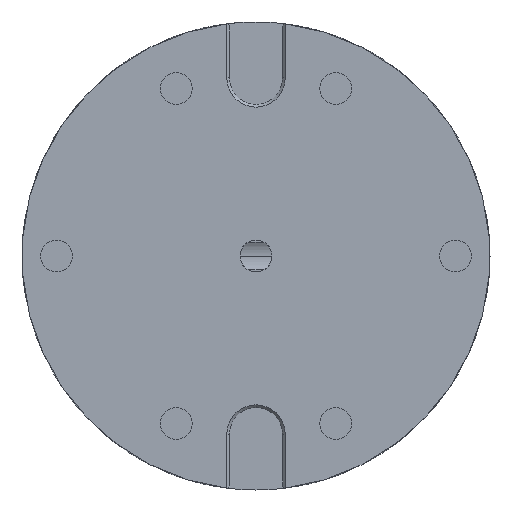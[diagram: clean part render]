
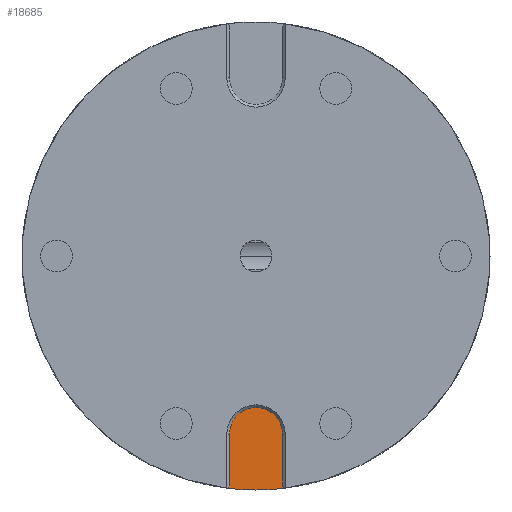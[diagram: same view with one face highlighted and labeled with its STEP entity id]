
A CAD part, front view. The second image highlights one B-rep face of the part: STEP entity #18685.
In plain terms, the highlighted planar face has unit normal (0, -1, 0).
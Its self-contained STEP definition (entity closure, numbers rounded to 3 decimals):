
#410 = CARTESIAN_POINT ( 'NONE',  ( 10., 4., -67. ) ) ;
#1078 = VERTEX_POINT ( 'NONE', #4867 ) ;
#1097 = CARTESIAN_POINT ( 'NONE',  ( 0., 4., 0. ) ) ;
#1343 = DIRECTION ( 'NONE',  ( 0., -1., 0. ) ) ;
#1549 = CARTESIAN_POINT ( 'NONE',  ( -10.893, 4., -87.323 ) ) ;
#3405 = PLANE ( 'NONE',  #5949 ) ;
#3814 = CARTESIAN_POINT ( 'NONE',  ( 10.987, 4., -87.311 ) ) ;
#3900 = ORIENTED_EDGE ( 'NONE', *, *, #5929, .T. ) ;
#3954 = CARTESIAN_POINT ( 'NONE',  ( -10., 4., -86.43 ) ) ;
#4571 = FACE_OUTER_BOUND ( 'NONE', #14313, .T. ) ;
#4725 = CARTESIAN_POINT ( 'NONE',  ( 0., 4., -67. ) ) ;
#4769 = AXIS2_PLACEMENT_3D ( 'NONE', #4725, #1343, #8215 ) ;
#4867 = CARTESIAN_POINT ( 'NONE',  ( 0., 4., -57. ) ) ;
#5015 = VECTOR ( 'NONE', #21121, 1000. ) ;
#5333 = CIRCLE ( 'NONE', #6702, 88. ) ;
#5751 = CARTESIAN_POINT ( 'NONE',  ( -10., 4., -87.43 ) ) ;
#5929 = EDGE_CURVE ( 'NONE', #11876, #16725, #13480, .T. ) ;
#5949 = AXIS2_PLACEMENT_3D ( 'NONE', #12991, #17950, #9751 ) ;
#5976 = DIRECTION ( 'NONE',  ( 0., 0., -1. ) ) ;
#6702 = AXIS2_PLACEMENT_3D ( 'NONE', #1097, #12159, #8928 ) ;
#6936 = VECTOR ( 'NONE', #12474, 1000. ) ;
#7240 = CIRCLE ( 'NONE', #17520, 88. ) ;
#7656 = LINE ( 'NONE', #5751, #6936 ) ;
#8215 = DIRECTION ( 'NONE',  ( 0., 0., -1. ) ) ;
#8493 = CIRCLE ( 'NONE', #17428, 10. ) ;
#8526 = ORIENTED_EDGE ( 'NONE', *, *, #9626, .T. ) ;
#8928 = DIRECTION ( 'NONE',  ( 0., 0., -1. ) ) ;
#9626 = EDGE_CURVE ( 'NONE', #1078, #12211, #16368, .T. ) ;
#9751 = DIRECTION ( 'NONE',  ( 0., 0., -1. ) ) ;
#10295 = DIRECTION ( 'NONE',  ( -0.707, 0., -0.707 ) ) ;
#10410 = LINE ( 'NONE', #18481, #19769 ) ;
#10542 = EDGE_CURVE ( 'NONE', #19362, #11876, #11225, .T. ) ;
#10731 = CARTESIAN_POINT ( 'NONE',  ( -10., 4., -67. ) ) ;
#11225 = LINE ( 'NONE', #15891, #5015 ) ;
#11641 = EDGE_CURVE ( 'NONE', #16725, #1078, #8493, .T. ) ;
#11876 = VERTEX_POINT ( 'NONE', #17113 ) ;
#11999 = EDGE_CURVE ( 'NONE', #19522, #16713, #5333, .T. ) ;
#12159 = DIRECTION ( 'NONE',  ( 0., -1., 0. ) ) ;
#12211 = VERTEX_POINT ( 'NONE', #10731 ) ;
#12474 = DIRECTION ( 'NONE',  ( 0., 0., -1. ) ) ;
#12991 = CARTESIAN_POINT ( 'NONE',  ( 0., 4., 0. ) ) ;
#13193 = DIRECTION ( 'NONE',  ( 0., -1., 0. ) ) ;
#13480 = LINE ( 'NONE', #20337, #15030 ) ;
#14297 = ORIENTED_EDGE ( 'NONE', *, *, #11641, .T. ) ;
#14313 = EDGE_LOOP ( 'NONE', ( #18718, #17793, #19590, #3900, #14297, #8526, #17530, #17847 ) ) ;
#15030 = VECTOR ( 'NONE', #18641, 1000. ) ;
#15186 = EDGE_CURVE ( 'NONE', #19122, #19522, #10410, .T. ) ;
#15891 = CARTESIAN_POINT ( 'NONE',  ( -38.275, 4., -48.161 ) ) ;
#16368 = CIRCLE ( 'NONE', #4769, 10. ) ;
#16713 = VERTEX_POINT ( 'NONE', #18683 ) ;
#16725 = VERTEX_POINT ( 'NONE', #410 ) ;
#17113 = CARTESIAN_POINT ( 'NONE',  ( 10., 4., -86.527 ) ) ;
#17428 = AXIS2_PLACEMENT_3D ( 'NONE', #21040, #13193, #19728 ) ;
#17520 = AXIS2_PLACEMENT_3D ( 'NONE', #20864, #20647, #5976 ) ;
#17530 = ORIENTED_EDGE ( 'NONE', *, *, #18118, .T. ) ;
#17542 = EDGE_CURVE ( 'NONE', #16713, #19362, #7240, .T. ) ;
#17793 = ORIENTED_EDGE ( 'NONE', *, *, #17542, .T. ) ;
#17847 = ORIENTED_EDGE ( 'NONE', *, *, #15186, .T. ) ;
#17950 = DIRECTION ( 'NONE',  ( 0., 1., 0. ) ) ;
#18118 = EDGE_CURVE ( 'NONE', #12211, #19122, #7656, .T. ) ;
#18481 = CARTESIAN_POINT ( 'NONE',  ( 38.215, 4., -38.215 ) ) ;
#18641 = DIRECTION ( 'NONE',  ( 0., 0., 1. ) ) ;
#18683 = CARTESIAN_POINT ( 'NONE',  ( 0., 4., -88. ) ) ;
#18685 = ADVANCED_FACE ( 'NONE', ( #4571 ), #3405, .F. ) ;
#18718 = ORIENTED_EDGE ( 'NONE', *, *, #11999, .T. ) ;
#19122 = VERTEX_POINT ( 'NONE', #3954 ) ;
#19362 = VERTEX_POINT ( 'NONE', #3814 ) ;
#19522 = VERTEX_POINT ( 'NONE', #1549 ) ;
#19590 = ORIENTED_EDGE ( 'NONE', *, *, #10542, .T. ) ;
#19728 = DIRECTION ( 'NONE',  ( 0., 0., -1. ) ) ;
#19769 = VECTOR ( 'NONE', #10295, 1000. ) ;
#20337 = CARTESIAN_POINT ( 'NONE',  ( 10., 4., -67. ) ) ;
#20647 = DIRECTION ( 'NONE',  ( 0., -1., 0. ) ) ;
#20864 = CARTESIAN_POINT ( 'NONE',  ( 0., 4., 0. ) ) ;
#21040 = CARTESIAN_POINT ( 'NONE',  ( 0., 4., -67. ) ) ;
#21121 = DIRECTION ( 'NONE',  ( -0.783, 0., 0.622 ) ) ;
